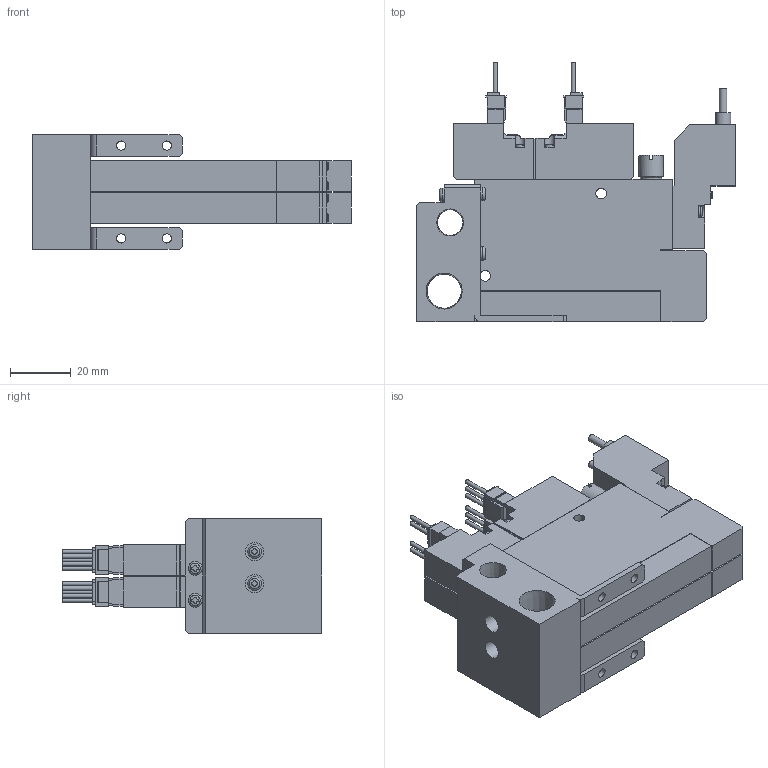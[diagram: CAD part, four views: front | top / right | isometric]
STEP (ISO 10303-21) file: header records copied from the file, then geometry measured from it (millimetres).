
FILE_DESCRIPTION(('STEP AP203'),'1');
FILE_NAME('V8C5WC202_3D.stp','2024-09-04T09:30:24',(' '),(' '),'Spatial InterOp 3D',' ',' ');
FILE_SCHEMA(('CONFIG_CONTROL_DESIGN'));
Length unit declared in the file: millimetre
Products named in the file (5): BSC1M※※V8C5WC202; Solenoid valve W; Pressure Sensor V8; Unit-C; BaseMC20R
Assembly tree (7 placements, depth 2):
  BSC1M※※V8C5WC202
    Solenoid valve W  x2
    Pressure Sensor V8  x2
    Unit-C  x2
    BaseMC20R
Bounding box: 104.5 x 85.05 x 37.5 mm (x, y, z)
Volume: 124484.9 mm3; surface area: 44587.3 mm2
Topology: 7 solids, 7 shells, 861 faces, 2303 edges, 1522 vertices
Faces by surface type: plane 649, cylinder 162, cone 22, torus 16, sphere 12
Full cylindrical faces by diameter (mm): 1.4 x10, 2.5 x10, 3 x12, 3.5 x12, 4 x2, 4.134 x4, 4.5 x8, 5 x2, 5.5 x2, 6 x2, 7 x4, 8 x2, 8.422 x1, 11.233 x1
Entity records: 16014 total; most frequent: CARTESIAN_POINT 3420, DIRECTION 2480, ORIENTED_EDGE 2478, EDGE_CURVE 1239, LINE 894, VECTOR 894, VERTEX_POINT 865, AXIS2_PLACEMENT_3D 793
